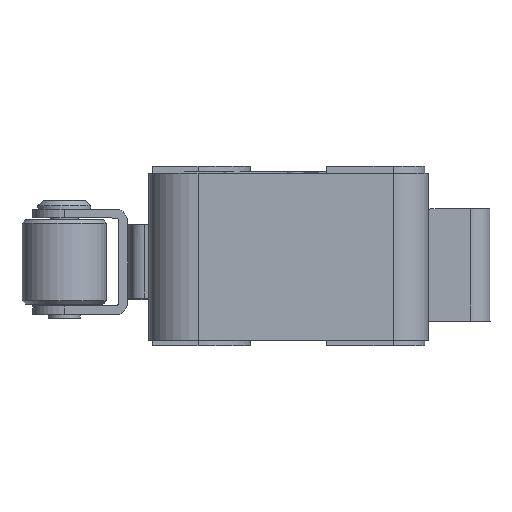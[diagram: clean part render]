
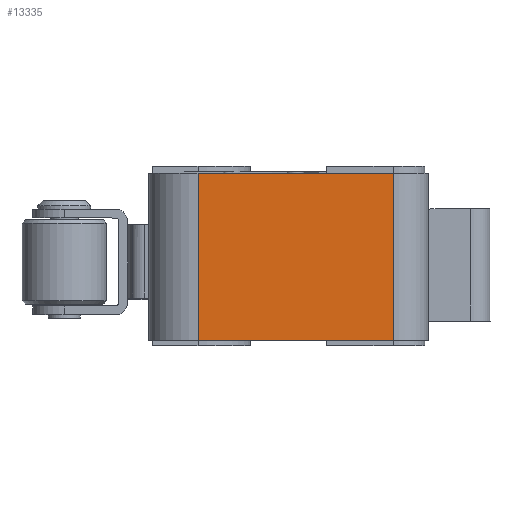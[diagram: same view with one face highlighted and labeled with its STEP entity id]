
A CAD part, left-side view. The second image highlights one B-rep face of the part: STEP entity #13335.
In plain terms, the highlighted planar face has unit normal (-1, 0, 0).
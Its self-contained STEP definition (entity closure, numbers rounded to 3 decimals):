
#343=DIRECTION('',(0.,0.,-1.));
#344=VECTOR('',#343,9.5);
#345=CARTESIAN_POINT('',(-27.322,8.192,4.8));
#346=LINE('',#345,#344);
#351=DIRECTION('',(0.,-1.,0.));
#352=VECTOR('',#351,11.1);
#353=CARTESIAN_POINT('',(-27.322,8.192,4.8));
#354=LINE('',#353,#352);
#363=DIRECTION('',(0.,0.,1.));
#364=VECTOR('',#363,9.5);
#365=CARTESIAN_POINT('',(-27.322,-2.908,
-4.7));
#366=LINE('',#365,#364);
#592=DIRECTION('',(0.,-1.,0.));
#593=VECTOR('',#592,11.1);
#594=CARTESIAN_POINT('',(-27.322,8.192,-4.7));
#595=LINE('',#594,#593);
#10340=CARTESIAN_POINT('',(-27.322,8.192,
4.8));
#10341=CARTESIAN_POINT('',(-27.322,8.192,
-4.7));
#10342=VERTEX_POINT('',#10340);
#10343=VERTEX_POINT('',#10341);
#10344=CARTESIAN_POINT('',(-27.322,-2.908,
-4.7));
#10345=CARTESIAN_POINT('',(-27.322,-2.908,
4.8));
#10346=VERTEX_POINT('',#10344);
#10347=VERTEX_POINT('',#10345);
#13321=CARTESIAN_POINT('',(-27.322,8.192,
2.1));
#13322=DIRECTION('',(-1.,0.,0.));
#13323=DIRECTION('',(0.,-1.,0.));
#13324=AXIS2_PLACEMENT_3D('',#13321,#13322,#13323);
#13325=PLANE('',#13324);
#13327=ORIENTED_EDGE('',*,*,#13326,.F.);
#13329=ORIENTED_EDGE('',*,*,#13328,.F.);
#13330=ORIENTED_EDGE('',*,*,#13311,.F.);
#13332=ORIENTED_EDGE('',*,*,#13331,.T.);
#13333=EDGE_LOOP('',(#13327,#13329,#13330,#13332));
#13334=FACE_OUTER_BOUND('',#13333,.F.);
#13335=ADVANCED_FACE('',(#13334),#13325,.T.);
#13311=EDGE_CURVE('',#10342,#10343,#346,.T.);
#13326=EDGE_CURVE('',#10346,#10347,#366,.T.);
#13328=EDGE_CURVE('',#10343,#10346,#595,.T.);
#13331=EDGE_CURVE('',#10342,#10347,#354,.T.);
